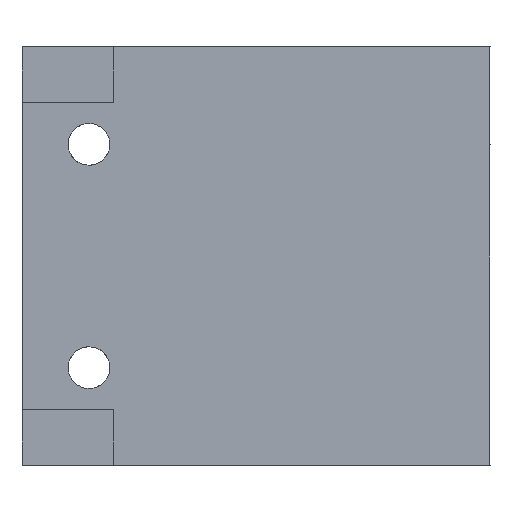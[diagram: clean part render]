
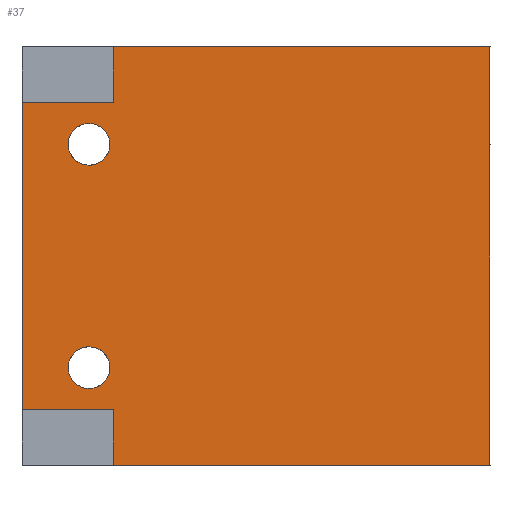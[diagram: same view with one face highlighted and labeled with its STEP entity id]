
A CAD part, front view. The second image highlights one B-rep face of the part: STEP entity #37.
In plain terms, the highlighted planar face has unit normal (0, -1, 0).
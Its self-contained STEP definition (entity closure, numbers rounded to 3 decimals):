
#17=FACE_BOUND('',#176,.T.);
#18=FACE_BOUND('',#177,.T.);
#37=ADVANCED_FACE('',(#105,#17,#18),#1076,.T.);
#105=FACE_OUTER_BOUND('',#175,.T.);
#175=EDGE_LOOP('',(#295,#296,#297,#298,#299,#300,#301,#302));
#176=EDGE_LOOP('',(#303,#304));
#177=EDGE_LOOP('',(#305,#306));
#295=ORIENTED_EDGE('',*,*,#638,.T.);
#296=ORIENTED_EDGE('',*,*,#639,.T.);
#297=ORIENTED_EDGE('',*,*,#663,.F.);
#298=ORIENTED_EDGE('',*,*,#623,.F.);
#299=ORIENTED_EDGE('',*,*,#622,.T.);
#300=ORIENTED_EDGE('',*,*,#682,.F.);
#301=ORIENTED_EDGE('',*,*,#595,.F.);
#302=ORIENTED_EDGE('',*,*,#681,.F.);
#303=ORIENTED_EDGE('',*,*,#768,.F.);
#304=ORIENTED_EDGE('',*,*,#614,.F.);
#305=ORIENTED_EDGE('',*,*,#771,.F.);
#306=ORIENTED_EDGE('',*,*,#615,.F.);
#595=EDGE_CURVE('',#951,#957,#818,.T.);
#614=EDGE_CURVE('',#976,#1059,#831,.T.);
#615=EDGE_CURVE('',#978,#1061,#832,.T.);
#622=EDGE_CURVE('',#985,#983,#782,.T.);
#623=EDGE_CURVE('',#985,#982,#783,.T.);
#638=EDGE_CURVE('',#996,#997,#797,.T.);
#639=EDGE_CURVE('',#997,#998,#798,.T.);
#663=EDGE_CURVE('',#982,#998,#811,.T.);
#681=EDGE_CURVE('',#996,#951,#863,.T.);
#682=EDGE_CURVE('',#957,#983,#864,.T.);
#768=EDGE_CURVE('',#1059,#976,#946,.T.);
#771=EDGE_CURVE('',#1061,#978,#949,.T.);
#782=B_SPLINE_CURVE_WITH_KNOTS('',1,(#2022,#2023),.UNSPECIFIED.,.F.,.F.,
(2,2),(19.,23.),.UNSPECIFIED.);
#783=B_SPLINE_CURVE_WITH_KNOTS('',1,(#2024,#2025),.UNSPECIFIED.,.F.,.F.,
(2,2),(-0.232,6.299),.UNSPECIFIED.);
#797=B_SPLINE_CURVE_WITH_KNOTS('',1,(#2055,#2056),.UNSPECIFIED.,.F.,.F.,
(2,2),(-7.,-3.),.UNSPECIFIED.);
#798=B_SPLINE_CURVE_WITH_KNOTS('',1,(#2057,#2058),.UNSPECIFIED.,.F.,.F.,
(2,2),(-0.232,6.299),.UNSPECIFIED.);
#811=B_SPLINE_CURVE_WITH_KNOTS('',1,(#2114,#2115),.UNSPECIFIED.,.F.,.F.,
(2,2),(88.643,108.083),.UNSPECIFIED.);
#818=(
BOUNDED_CURVE()
B_SPLINE_CURVE(1,(#1942,#1943),.UNSPECIFIED.,.F.,.F.)
B_SPLINE_CURVE_WITH_KNOTS((2,2),(0.,30.),.UNSPECIFIED.)
CURVE()
GEOMETRIC_REPRESENTATION_ITEM()
RATIONAL_B_SPLINE_CURVE((1.,1.))
REPRESENTATION_ITEM('')
);
#831=(
BOUNDED_CURVE()
B_SPLINE_CURVE(2,(#1993,#1994,#1995,#1996,#1997),.UNSPECIFIED.,.F.,.F.)
B_SPLINE_CURVE_WITH_KNOTS((3,2,3),(0.,2.356,4.712),
 .UNSPECIFIED.)
CURVE()
GEOMETRIC_REPRESENTATION_ITEM()
RATIONAL_B_SPLINE_CURVE((1.,0.707,1.,0.707,1.))
REPRESENTATION_ITEM('')
);
#832=(
BOUNDED_CURVE()
B_SPLINE_CURVE(2,(#1998,#1999,#2000,#2001,#2002),.UNSPECIFIED.,.F.,.F.)
B_SPLINE_CURVE_WITH_KNOTS((3,2,3),(-9.425,-7.069,
-4.712),.UNSPECIFIED.)
CURVE()
GEOMETRIC_REPRESENTATION_ITEM()
RATIONAL_B_SPLINE_CURVE((1.,0.707,1.,0.707,1.))
REPRESENTATION_ITEM('')
);
#863=(
BOUNDED_CURVE()
B_SPLINE_CURVE(2,(#2179,#2180,#2181,#2182,#2183,#2184,#2185),
 .UNSPECIFIED.,.F.,.F.)
B_SPLINE_CURVE_WITH_KNOTS((3,2,2,3),(-298.529,-285.029,
-284.9,-260.232),.UNSPECIFIED.)
CURVE()
GEOMETRIC_REPRESENTATION_ITEM()
RATIONAL_B_SPLINE_CURVE((1.,1.,1.,0.998,
0.995,0.998,1.))
REPRESENTATION_ITEM('')
);
#864=(
BOUNDED_CURVE()
B_SPLINE_CURVE(2,(#2186,#2187,#2188,#2189,#2190,#2191,#2192),
 .UNSPECIFIED.,.F.,.F.)
B_SPLINE_CURVE_WITH_KNOTS((3,2,2,3),(382.098,406.766,
406.895,420.395),.UNSPECIFIED.)
CURVE()
GEOMETRIC_REPRESENTATION_ITEM()
RATIONAL_B_SPLINE_CURVE((1.,0.998,0.995,0.998,
1.,1.,1.))
REPRESENTATION_ITEM('')
);
#946=(
BOUNDED_CURVE()
B_SPLINE_CURVE(2,(#2589,#2590,#2591,#2592,#2593),.UNSPECIFIED.,.F.,.F.)
B_SPLINE_CURVE_WITH_KNOTS((3,2,3),(4.712,7.069,9.425),
 .UNSPECIFIED.)
CURVE()
GEOMETRIC_REPRESENTATION_ITEM()
RATIONAL_B_SPLINE_CURVE((1.,0.707,1.,0.707,1.))
REPRESENTATION_ITEM('')
);
#949=(
BOUNDED_CURVE()
B_SPLINE_CURVE(2,(#2601,#2602,#2603,#2604,#2605),.UNSPECIFIED.,.F.,.F.)
B_SPLINE_CURVE_WITH_KNOTS((3,2,3),(-4.712,-2.356,
0.),.UNSPECIFIED.)
CURVE()
GEOMETRIC_REPRESENTATION_ITEM()
RATIONAL_B_SPLINE_CURVE((1.,0.707,1.,0.707,1.))
REPRESENTATION_ITEM('')
);
#951=VERTEX_POINT('',#1830);
#957=VERTEX_POINT('',#1836);
#976=VERTEX_POINT('',#1855);
#978=VERTEX_POINT('',#1857);
#982=VERTEX_POINT('',#1861);
#983=VERTEX_POINT('',#1862);
#985=VERTEX_POINT('',#1864);
#996=VERTEX_POINT('',#1875);
#997=VERTEX_POINT('',#1876);
#998=VERTEX_POINT('',#1877);
#1059=VERTEX_POINT('',#1938);
#1061=VERTEX_POINT('',#1940);
#1076=PLANE('',#1161);
#1161=AXIS2_PLACEMENT_3D('',#1785,#1192,$);
#1192=DIRECTION('',(0.,-1.,0.));
#1785=CARTESIAN_POINT('',(87.557,164.501,437.448));
#1830=CARTESIAN_POINT('',(87.221,164.501,437.148));
#1836=CARTESIAN_POINT('',(87.221,164.501,407.148));
#1855=CARTESIAN_POINT('',(59.99,164.501,430.148));
#1857=CARTESIAN_POINT('',(59.99,164.501,414.149));
#1861=CARTESIAN_POINT('',(53.691,164.501,411.148));
#1862=CARTESIAN_POINT('',(60.221,164.501,407.148));
#1864=CARTESIAN_POINT('',(60.222,164.502,411.148));
#1875=CARTESIAN_POINT('',(60.221,164.501,437.148));
#1876=CARTESIAN_POINT('',(60.222,164.502,433.148));
#1877=CARTESIAN_POINT('',(53.691,164.502,433.148));
#1938=CARTESIAN_POINT('',(56.99,164.501,430.148));
#1940=CARTESIAN_POINT('',(56.99,164.501,414.149));
#1942=CARTESIAN_POINT('',(87.221,164.501,437.148));
#1943=CARTESIAN_POINT('',(87.221,164.501,407.148));
#1993=CARTESIAN_POINT('',(59.99,164.501,430.148));
#1994=CARTESIAN_POINT('',(59.99,164.501,431.648));
#1995=CARTESIAN_POINT('',(58.49,164.501,431.648));
#1996=CARTESIAN_POINT('',(56.99,164.501,431.648));
#1997=CARTESIAN_POINT('',(56.99,164.501,430.148));
#1998=CARTESIAN_POINT('',(59.99,164.501,414.149));
#1999=CARTESIAN_POINT('',(59.99,164.501,415.649));
#2000=CARTESIAN_POINT('',(58.49,164.501,415.649));
#2001=CARTESIAN_POINT('',(56.99,164.501,415.649));
#2002=CARTESIAN_POINT('',(56.99,164.501,414.149));
#2022=CARTESIAN_POINT('',(60.222,164.502,411.148));
#2023=CARTESIAN_POINT('',(60.221,164.501,407.148));
#2024=CARTESIAN_POINT('',(60.222,164.502,411.148));
#2025=CARTESIAN_POINT('',(53.691,164.501,411.148));
#2055=CARTESIAN_POINT('',(60.221,164.501,437.148));
#2056=CARTESIAN_POINT('',(60.222,164.502,433.148));
#2057=CARTESIAN_POINT('',(60.222,164.502,433.148));
#2058=CARTESIAN_POINT('',(53.691,164.502,433.148));
#2114=CARTESIAN_POINT('',(53.691,164.501,411.148));
#2115=CARTESIAN_POINT('',(53.691,164.502,433.148));
#2179=CARTESIAN_POINT('',(60.221,164.501,437.148));
#2180=CARTESIAN_POINT('',(66.971,164.501,437.148));
#2181=CARTESIAN_POINT('',(73.721,164.501,437.148));
#2182=CARTESIAN_POINT('',(73.796,164.501,437.148));
#2183=CARTESIAN_POINT('',(73.871,164.502,437.148));
#2184=CARTESIAN_POINT('',(80.546,164.501,437.148));
#2185=CARTESIAN_POINT('',(87.221,164.501,437.148));
#2186=CARTESIAN_POINT('',(87.221,164.501,407.148));
#2187=CARTESIAN_POINT('',(80.546,164.501,407.148));
#2188=CARTESIAN_POINT('',(73.871,164.502,407.148));
#2189=CARTESIAN_POINT('',(73.796,164.501,407.148));
#2190=CARTESIAN_POINT('',(73.721,164.501,407.148));
#2191=CARTESIAN_POINT('',(66.971,164.501,407.148));
#2192=CARTESIAN_POINT('',(60.221,164.501,407.148));
#2589=CARTESIAN_POINT('',(56.99,164.501,430.148));
#2590=CARTESIAN_POINT('',(56.99,164.501,428.648));
#2591=CARTESIAN_POINT('',(58.49,164.501,428.648));
#2592=CARTESIAN_POINT('',(59.99,164.501,428.648));
#2593=CARTESIAN_POINT('',(59.99,164.501,430.148));
#2601=CARTESIAN_POINT('',(56.99,164.501,414.149));
#2602=CARTESIAN_POINT('',(56.99,164.501,412.649));
#2603=CARTESIAN_POINT('',(58.49,164.501,412.649));
#2604=CARTESIAN_POINT('',(59.99,164.501,412.649));
#2605=CARTESIAN_POINT('',(59.99,164.501,414.149));
